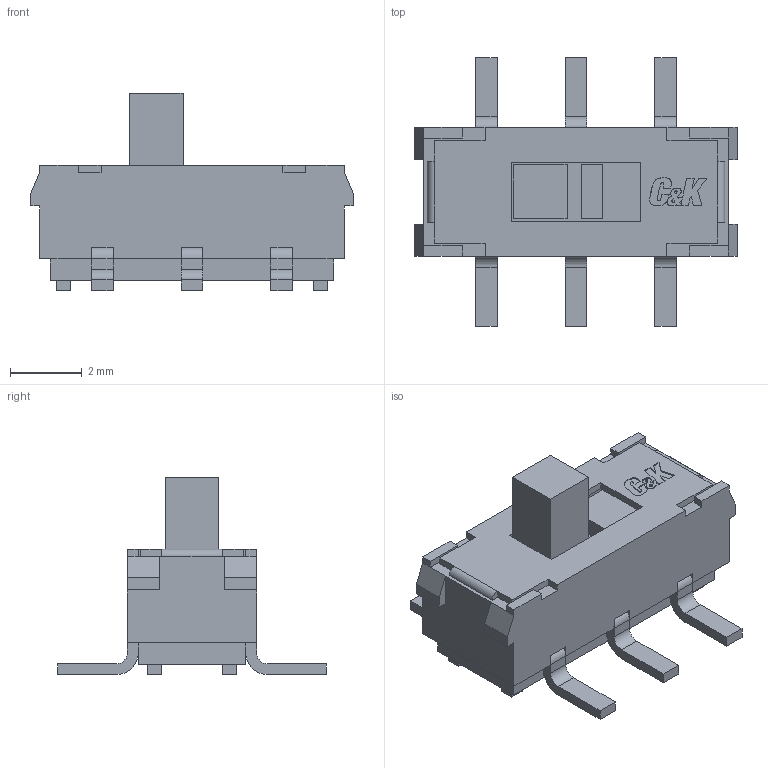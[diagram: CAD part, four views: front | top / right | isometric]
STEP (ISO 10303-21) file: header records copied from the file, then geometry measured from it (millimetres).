
FILE_DESCRIPTION( ( '' ), ' ' );
FILE_NAME( '/vol/tmp/translate-7481979570632753871/5937187de5bd6218b352d09a.step', '2017-06-06T21:02:54', ( '' ), ( '' ), ' ', ' ', ' ' );
FILE_SCHEMA( ( 'AUTOMOTIVE_DESIGN { 1 0 10303 214 1 1 1 1 }' ) );
Length unit declared in the file: metre
Products named in the file (1): Open CASCADE STEP translator 6.8 1
Bounding box: 9 x 7.5 x 5.5 mm (x, y, z)
Volume: 97.8 mm3; surface area: 209.7 mm2
Topology: 1 solids, 1 shells, 231 faces, 619 edges, 410 vertices
Faces by surface type: plane 191, cylinder 31, extrusion 9
Entity records: 12268 total; most frequent: CARTESIAN_POINT 1512, ORIENTED_EDGE 1238, DIRECTION 1110, STYLED_ITEM 850, PRESENTATION_STYLE_ASSIGNMENT 850, COLOUR_RGB 850, EDGE_CURVE 619, CURVE_STYLE 619
